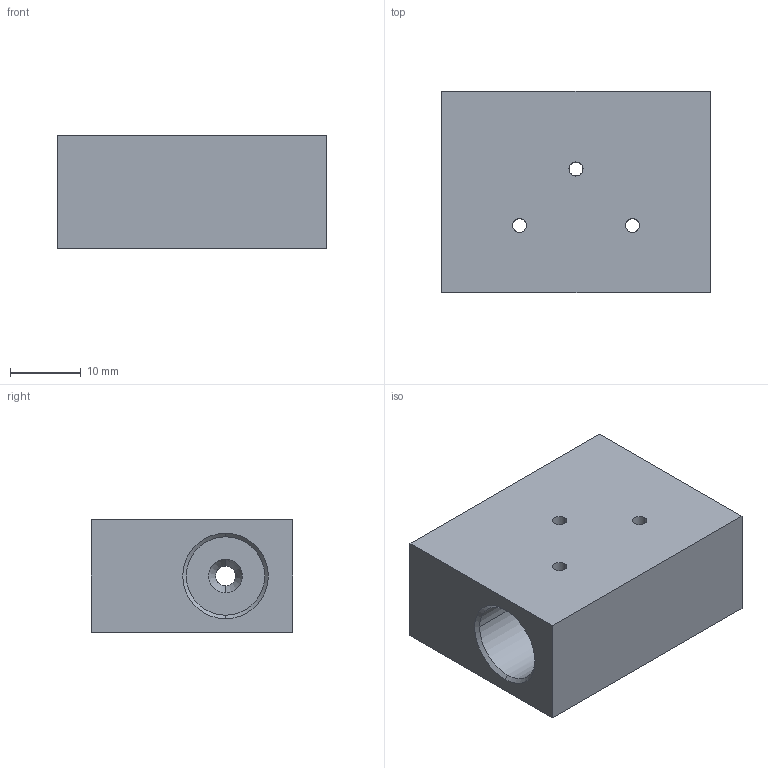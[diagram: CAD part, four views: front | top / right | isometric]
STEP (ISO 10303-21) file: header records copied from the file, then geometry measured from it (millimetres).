
FILE_DESCRIPTION (( 'STEP AP203' ), '1' );
FILE_NAME ('FT20TS04.STEP', '2026-06-26T01:30:02', ( 'USER' ), ( '' ), 'SwSTEP 2.0', 'SolidWorks 2023', '' );
FILE_SCHEMA (( 'CONFIG_CONTROL_DESIGN' ));
Length unit declared in the file: millimetre
Products named in the file (1): FT20TS04
Bounding box: 38 x 28.5 x 16 mm (x, y, z)
Volume: 13437.1 mm3; surface area: 5772.4 mm2
Topology: 1 solids, 1 shells, 44 faces, 114 edges, 72 vertices
Faces by surface type: cylinder 23, cone 12, plane 9
Entity records: 1633 total; most frequent: CARTESIAN_POINT 445, DIRECTION 232, ORIENTED_EDGE 228, EDGE_CURVE 114, AXIS2_PLACEMENT_3D 91, VERTEX_POINT 72, EDGE_LOOP 60, LINE 50
